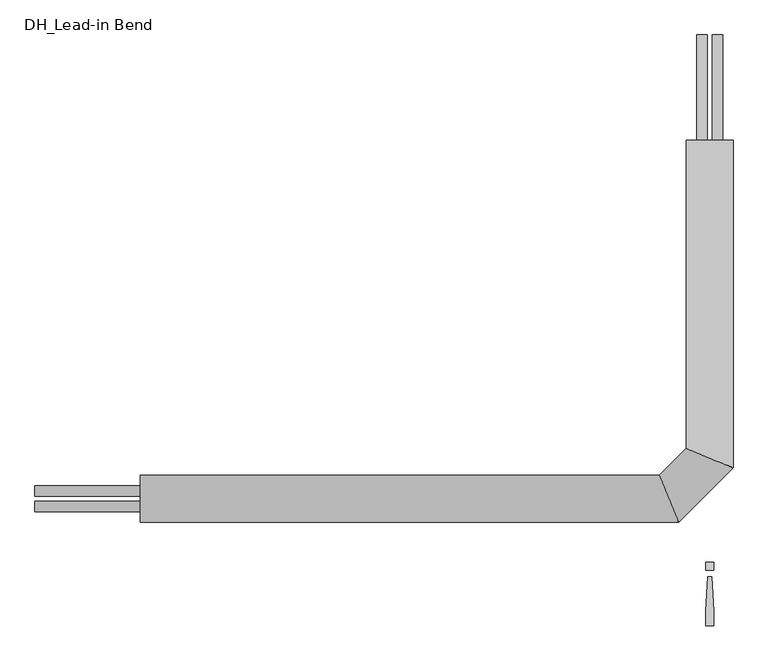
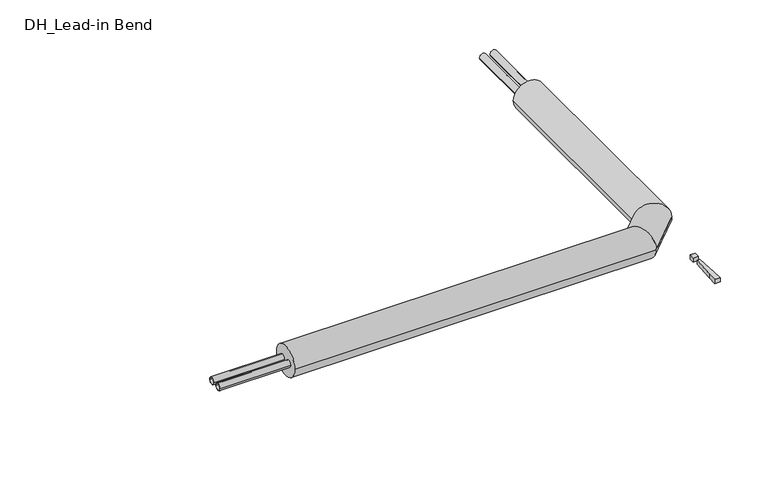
"""IFC4 building model written with IfcOpenShell, lengths in millimetres: pipe fitting geometry, DH_Lead-in Bend : RVT/RVX/RTX DUO 11 Heating Vertical."""

from ifc_helpers import new_model, si_unit, point, frame, frame_2d, origin, origin_with_axes, place, context, project, spatial, polyline, circle_curve, ellipse_curve, trimmed, segment, composite_curve, outline, extrude, source, transform, mapped, element, save
from ifc_brep_helpers import plane_surface, cylinder_surface, advanced_brep


def dh_lead_in_bend_01470123(model_context):
    return source(origin(), model_context, "Body", "SolidModel", [
        extrude(outline(composite_curve([segment(trimmed(circle_curve(frame_2d((-18.5, 0.0)), 12.5), [point((-6.0, 0.0))], [point((-31.0, 0.0))], False, "CARTESIAN"), True, "CONTINUOUS"), segment(trimmed(circle_curve(frame_2d((-18.5, 0.0)), 12.5), [point((-31.0, 0.0))], [point((-6.0, 0.0))], False, "CARTESIAN"), True, "CONTINUOUS")], self_intersect=False), holes=[composite_curve([segment(trimmed(circle_curve(frame_2d((-18.5, 0.0)), 10.2), [point((-8.3, 0.0))], [point((-28.7, 0.0))], True, "CARTESIAN"), True, "CONTINUOUS"), segment(trimmed(circle_curve(frame_2d((-18.5, 0.0)), 10.2), [point((-28.7, 0.0))], [point((-8.3, 0.0))], True, "CARTESIAN"), True, "CONTINUOUS")], self_intersect=False)]), frame((-1600.0, 0.0, 0.0), z_axis=(1.0, 0.0, 0.0), x_axis=(0.0, 1.0, 0.0)), (0.0, 0.0, 1.0), 250.0),
        advanced_brep(
        [(-1350.0, -55.5, 0.0), (-1350.0, 55.5, 0.0), (-73.5111473, -55.5, 0.0), (-119.4888527, 55.5, 0.0), (55.5, 850.0, 0.0), (-55.5, 850.0, 0.0), (-55.5, 119.4888527, 0.0), (55.5, 73.5111473, 0.0)],
        [
            (0, 1, circle_curve(frame((-1350.0, 0.0, 0.0), z_axis=(-1.0, 0.0, 0.0), x_axis=(0.0, 1.0, 0.0)), 55.5)),
            (1, 0, circle_curve(frame((-1350.0, 0.0, 0.0), z_axis=(-1.0, 0.0, 0.0), x_axis=(0.0, 1.0, 0.0)), 55.5)),
            (0, 2),
            (2, 3, ellipse_curve(frame((-96.5, 0.0, 0.0), z_axis=(-0.9238795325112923, -0.38268343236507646, 0.0), x_axis=(-0.38268343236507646, 0.9238795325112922, 0.0)), 60.0727671, 55.5)),
            (3, 1),
            (3, 2, ellipse_curve(frame((-96.5, 0.0, 0.0), z_axis=(-0.9238795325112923, -0.38268343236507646, 0.0), x_axis=(-0.38268343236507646, 0.9238795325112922, 0.0)), 60.0727671, 55.5)),
            (4, 5, circle_curve(frame((0.0, 850.0, 0.0), z_axis=(0.0, 1.0, 0.0), x_axis=(-1.0, 0.0, 0.0)), 55.5)),
            (5, 4, circle_curve(frame((0.0, 850.0, 0.0), z_axis=(0.0, 1.0, 0.0), x_axis=(-1.0, 0.0, 0.0)), 55.5)),
            (6, 7, ellipse_curve(frame((0.0, 96.5, 0.0), z_axis=(0.3826834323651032, 0.9238795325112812, 0.0), x_axis=(0.9238795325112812, -0.3826834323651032, 0.0)), 60.0727671, 55.5)),
            (7, 4),
            (5, 6),
            (7, 6, ellipse_curve(frame((0.0, 96.5, 0.0), z_axis=(0.3826834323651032, 0.9238795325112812, 0.0), x_axis=(0.9238795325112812, -0.3826834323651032, 0.0)), 60.0727671, 55.5)),
            (2, 7),
            (6, 3),
        ],
        [
            plane_surface(frame((-1350.0, 0.0, 0.0), z_axis=(-1.0, 0.0, 0.0), x_axis=(0.0, 0.0, 1.0))),
            cylinder_surface(frame((-1350.0, 0.0, 0.0), z_axis=(-1.0, 0.0, 0.0), x_axis=(0.0, 1.0, 0.0)), 55.5),
            plane_surface(frame((0.0, 850.0, 0.0), z_axis=(0.0, 1.0, 0.0), x_axis=(0.0, 0.0, 1.0))),
            cylinder_surface(frame((0.0, 96.5, 0.0), z_axis=(0.0, -1.0, 0.0), x_axis=(-1.0, 0.0, 0.0)), 55.5),
            cylinder_surface(frame((-96.5, 0.0, 0.0), z_axis=(-0.707106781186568, -0.7071067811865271, 0.0), x_axis=(-0.7071067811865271, 0.707106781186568, 0.0)), 55.5),
        ],
        [
            (0, [[1, 2]]),
            (1, [[-1, 3, 4, 5]]),
            (1, [[-2, -5, 6, -3]]),
            (2, [[7, 8]]),
            (3, [[9, 10, -8, 11]]),
            (3, [[12, -11, -7, -10]]),
            (4, [[-4, 13, -9, 14]]),
            (4, [[-6, -14, -12, -13]]),
        ],
    ),
        extrude(outline(composite_curve([segment(trimmed(circle_curve(frame_2d((0.0, -18.5)), 12.5), [point((0.0, -6.0))], [point((0.0, -31.0))], False, "CARTESIAN"), True, "CONTINUOUS"), segment(trimmed(circle_curve(frame_2d((0.0, -18.5)), 12.5), [point((0.0, -31.0))], [point((0.0, -6.0))], False, "CARTESIAN"), True, "CONTINUOUS")], self_intersect=False), holes=[composite_curve([segment(trimmed(circle_curve(frame_2d((0.0, -18.5)), 10.2), [point((0.0, -8.3))], [point((0.0, -28.7))], True, "CARTESIAN"), True, "CONTINUOUS"), segment(trimmed(circle_curve(frame_2d((0.0, -18.5)), 10.2), [point((0.0, -28.7))], [point((0.0, -8.3))], True, "CARTESIAN"), True, "CONTINUOUS")], self_intersect=False)]), frame((0.0, 850.0, 0.0), z_axis=(0.0, 1.0, 0.0), x_axis=(0.0, 0.0, 1.0)), (0.0, 0.0, 1.0), 250.0),
        extrude(outline(composite_curve([segment(trimmed(circle_curve(frame_2d((18.5, 0.0)), 12.5), [point((6.0, 0.0))], [point((31.0, 0.0))], False, "CARTESIAN"), True, "CONTINUOUS"), segment(trimmed(circle_curve(frame_2d((18.5, 0.0)), 12.5), [point((31.0, 0.0))], [point((6.0, 0.0))], False, "CARTESIAN"), True, "CONTINUOUS")], self_intersect=False), holes=[composite_curve([segment(trimmed(circle_curve(frame_2d((18.5, 0.0)), 10.2), [point((8.3, 0.0))], [point((28.7, 0.0))], True, "CARTESIAN"), True, "CONTINUOUS"), segment(trimmed(circle_curve(frame_2d((18.5, 0.0)), 10.2), [point((28.7, 0.0))], [point((8.3, 0.0))], True, "CARTESIAN"), True, "CONTINUOUS")], self_intersect=False)]), frame((-1600.0, 0.0, 0.0), z_axis=(1.0, 0.0, 0.0), x_axis=(0.0, 1.0, 0.0)), (0.0, 0.0, 1.0), 250.0),
        extrude(outline(composite_curve([segment(trimmed(circle_curve(frame_2d((0.0, 18.5)), 12.5), [point((0.0, 6.0))], [point((0.0, 31.0))], False, "CARTESIAN"), True, "CONTINUOUS"), segment(trimmed(circle_curve(frame_2d((0.0, 18.5)), 12.5), [point((0.0, 31.0))], [point((0.0, 6.0))], False, "CARTESIAN"), True, "CONTINUOUS")], self_intersect=False), holes=[composite_curve([segment(trimmed(circle_curve(frame_2d((0.0, 18.5)), 10.2), [point((0.0, 8.3))], [point((0.0, 28.7))], True, "CARTESIAN"), True, "CONTINUOUS"), segment(trimmed(circle_curve(frame_2d((0.0, 18.5)), 10.2), [point((0.0, 28.7))], [point((0.0, 8.3))], True, "CARTESIAN"), True, "CONTINUOUS")], self_intersect=False)]), frame((0.0, 850.0, 0.0), z_axis=(0.0, 1.0, 0.0), x_axis=(0.0, 0.0, 1.0)), (0.0, 0.0, 1.0), 250.0),
        extrude(outline(polyline([(4.7088895, -185.3166715), (9.4177791, -266.6553807), (9.4177791, -300.6844652), (-9.4177791, -300.6844652), (-9.4177791, -266.6553807), (-4.7088895, -185.3166715), (4.7088895, -185.3166715)])), origin_with_axes(), (0.0, 0.0, 1.0), 15.0),
        extrude(outline(polyline([(9.4177791, -150.0), (9.4177791, -168.8355582), (-9.4177791, -168.8355582), (-9.4177791, -150.0), (9.4177791, -150.0)])), origin_with_axes(), (0.0, 0.0, 1.0), 15.0),
    ])


if __name__ == "__main__":
    model = new_model("IFC4")
    model_context = context("Model", 3, world=origin())
    ifc_project = project(units=[si_unit("LENGTHUNIT", "METRE", prefix="MILLI")], contexts=[model_context])
    site = spatial("IfcSite", under=ifc_project)
    building = spatial("IfcBuilding", under=site)
    placement = place(None, origin())
    dh_lead_in_bend_shape = dh_lead_in_bend_01470123(model_context)
    element("IfcPipeFitting", 1, ObjectType="DH_Lead-in Bend : RVT/RVX/RTX DUO 11 Heating Vertical", at=placement, inside=building, context=model_context, shape_type="MappedRepresentation", body=[
        mapped(dh_lead_in_bend_shape, transform((0.0, 0.0, 0.0), x_axis=(1.0, 0.0, 0.0), y_axis=(0.0, 1.0, 0.0), z_axis=(0.0, 0.0, 1.0))),
    ])
    save(model, "model.ifc")
